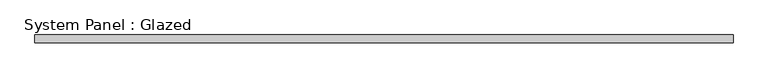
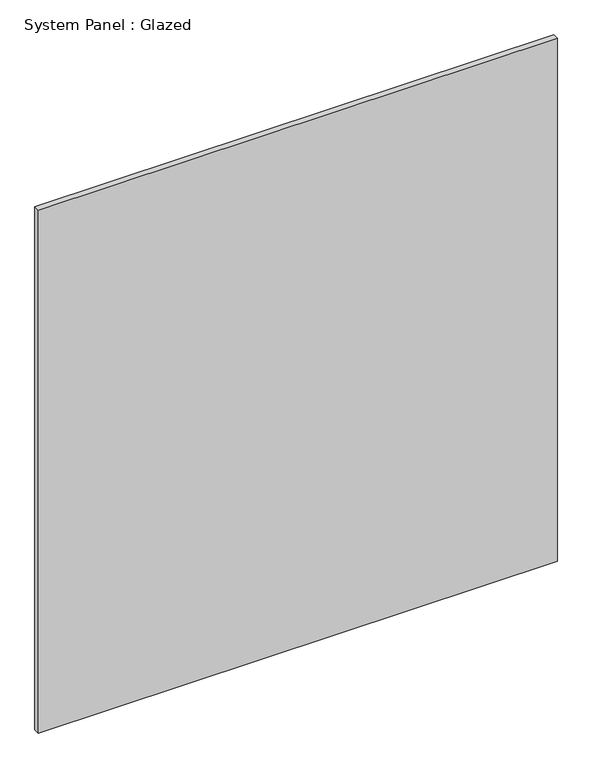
"""IFC4 building model written with IfcOpenShell, lengths in millimetres: plate geometry, System Panel : Glazed."""

from ifc_helpers import new_model, si_unit, origin, origin_with_axes, place, context, project, spatial, polyline, outline, extrude, source, transform, mapped, element, save


def system_panel_glazed_d1cd8156(model_context):
    return source(origin(), model_context, "Body", "SweptSolid", [
        extrude(outline(polyline([(1153.3070958, 19.05), (-1153.3070958, 19.05), (-1153.3070958, 44.45), (1153.3070958, 44.45), (1153.3070958, 19.05)])), origin_with_axes(), (0.0, 0.0, 1.0), 2455.3333333),
    ])


if __name__ == "__main__":
    model = new_model("IFC4")
    model_context = context("Model", 3, world=origin())
    ifc_project = project(units=[si_unit("LENGTHUNIT", "METRE", prefix="MILLI")], contexts=[model_context])
    site = spatial("IfcSite", under=ifc_project)
    building = spatial("IfcBuilding", under=site)
    placement = place(None, origin())
    system_panel_glazed_shape = system_panel_glazed_d1cd8156(model_context)
    element("IfcPlate", 1, ObjectType="System Panel : Glazed", at=placement, inside=building, context=model_context, shape_type="MappedRepresentation", body=[
        mapped(system_panel_glazed_shape, transform((0.0, 0.0, 0.0), x_axis=(1.0, 0.0, 0.0), y_axis=(0.0, 1.0, 0.0), z_axis=(0.0, 0.0, 1.0))),
    ])
    save(model, "model.ifc")
